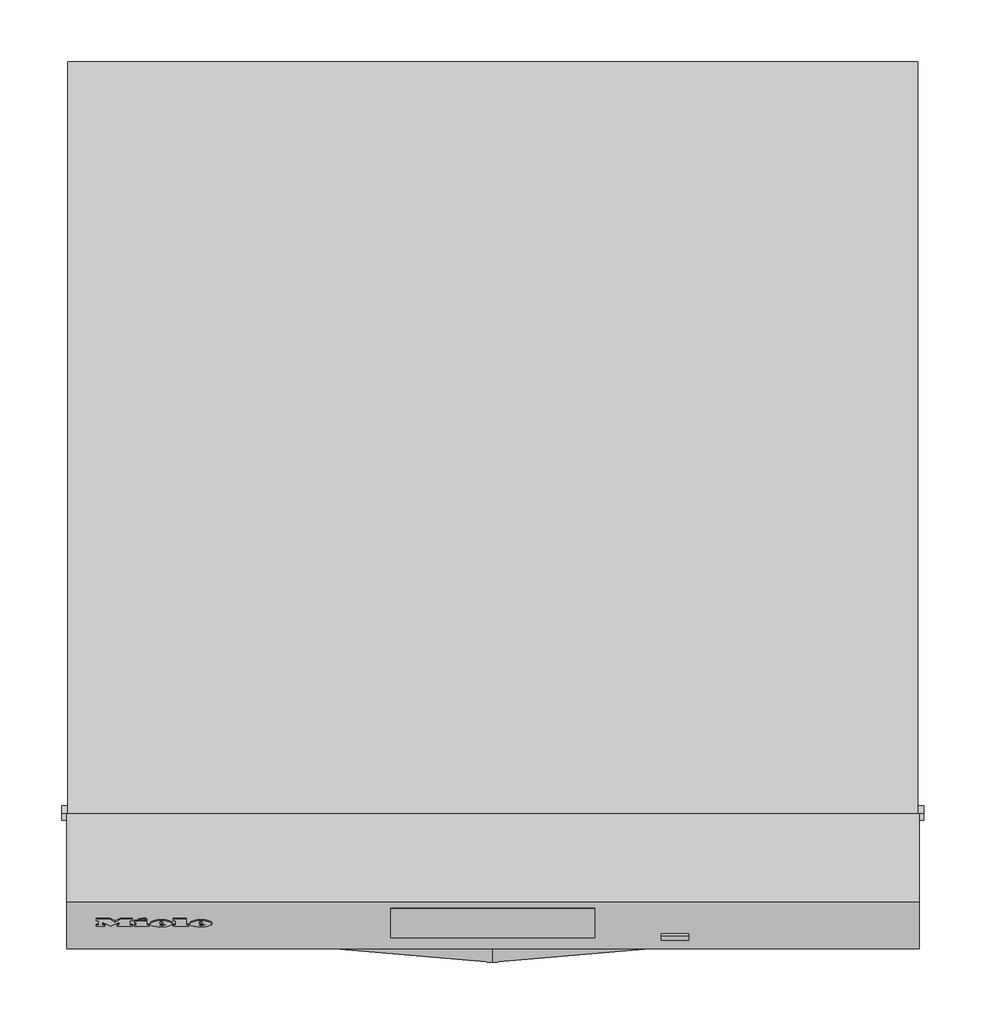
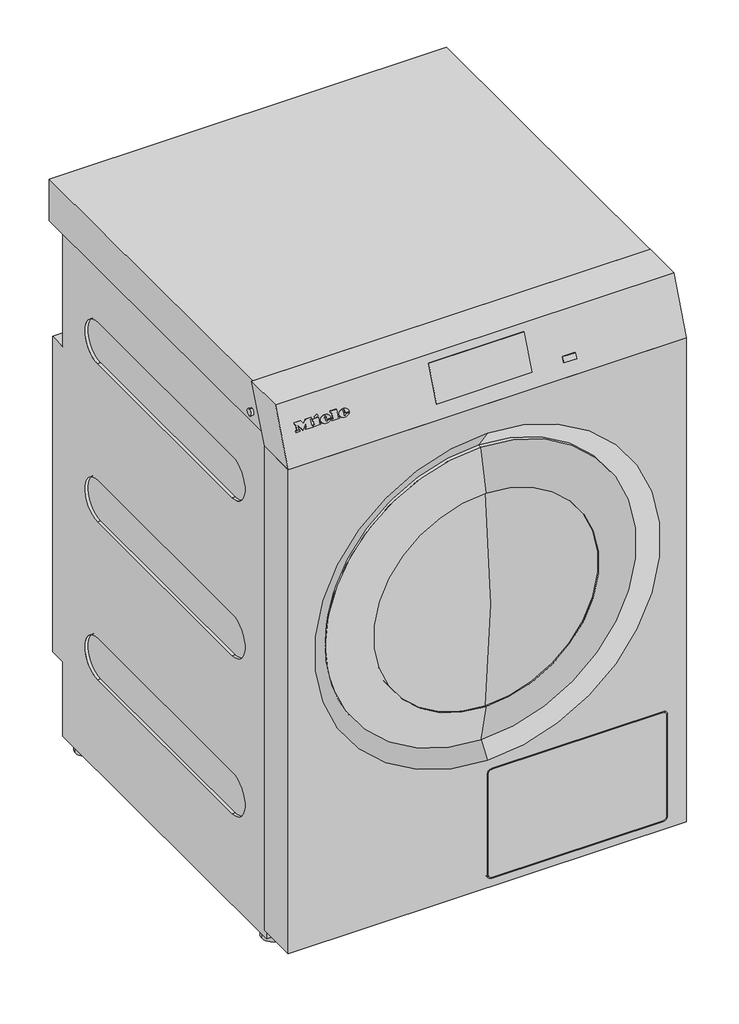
# Not in any storey: 1 proxy.
"""IFC4 building model written with IfcOpenShell, lengths in millimetres."""

from ifc_helpers import new_model, si_unit, origin, place, context, project, spatial, transform, mapped, element, save
from components import specialty_equipment_f5509ea8

model = new_model("IFC4")

# Units and contexts
model_context = context("Model", 3, world=origin())
ifc_project = project(units=[si_unit("LENGTHUNIT", "METRE", prefix="MILLI")], contexts=[model_context])

# Site, building
site = spatial("IfcSite", under=ifc_project)
building = spatial("IfcBuilding", under=site)

# Proxy
placement = place(None, origin())
specialty_equipment_shape = specialty_equipment_f5509ea8(model_context)
element("IfcBuildingElementProxy", 1, Name="11966870_SOM_PDR910EL_SST : 52910012_SOM_11966870_PDR910EL_SST", ObjectType="11966870_SOM_PDR910EL_SST : 52910012_SOM_11966870_PDR910EL_SST", at=placement, inside=building, context=model_context, shape_type="MappedRepresentation", body=[
    mapped(specialty_equipment_shape, transform((0.0, 0.0, 0.0), x_axis=(1.0, 0.0, 0.0), y_axis=(0.0, 1.0, 0.0), z_axis=(0.0, 0.0, 1.0))),
])

save(model, "model.ifc")
